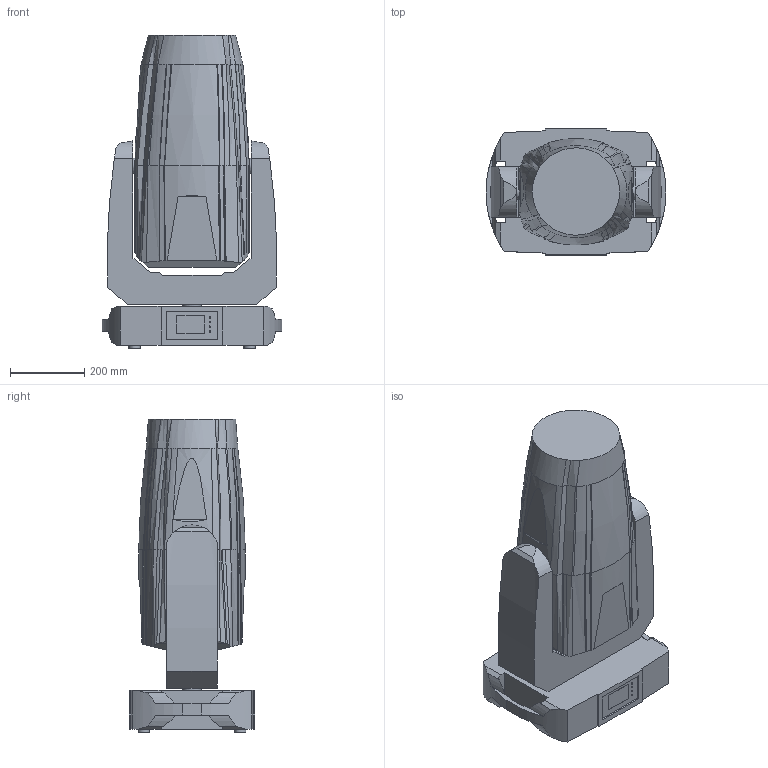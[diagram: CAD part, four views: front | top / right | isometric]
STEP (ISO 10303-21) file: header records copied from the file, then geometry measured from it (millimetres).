
FILE_DESCRIPTION(/* description */ ('Unknown'),/* implementation_level */ '2;1');
FILE_NAME(/* name */ '3D_Forte_GDTF',/* time_stamp */ '2020-09-08T14:32:41+02:00',/* author */ ('Ing.Rostislav HĂˇba'),/* organization */ ('ROBE lighting'),/* preprocessor_version */ 'ST-DEVELOPER v16.7',/* originating_system */ 'Solid Edge',/* authorisation */ 'Unknown');
FILE_SCHEMA (('AUTOMOTIVE_DESIGN {1 0 10303 214 3 1 1}'));
Length unit declared in the file: millimetre
Products named in the file (4): 3D_Forte_GDTF; BMFL_base; Arm Forte; Head Forte
Assembly tree (3 placements, depth 2):
  3D_Forte_GDTF
    BMFL_base
    Arm Forte
    Head Forte
Bounding box: 482.55 x 339.31 x 844.16 mm (x, y, z)
Volume: 66428982.6 mm3; surface area: 1670430.5 mm2
Topology: 3 solids, 3 shells, 286 faces, 710 edges, 458 vertices
Faces by surface type: bspline 117, plane 116, cylinder 53
Full cylindrical faces by diameter (mm): 4.153 x4, 10 x10, 20.926 x6, 30 x4, 32 x1, 40.237 x2, 50 x1, 51 x1
Entity records: 9921 total; most frequent: CARTESIAN_POINT 3774, ORIENTED_EDGE 1358, DIRECTION 972, EDGE_CURVE 679, VERTEX_POINT 456, EDGE_LOOP 349, FACE_BOUND 349, AXIS2_PLACEMENT_3D 341
